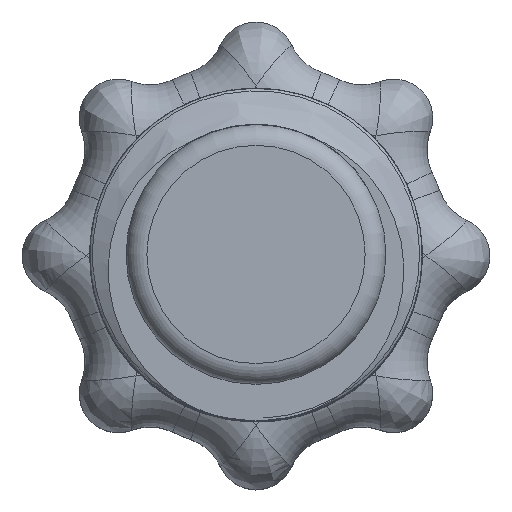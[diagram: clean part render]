
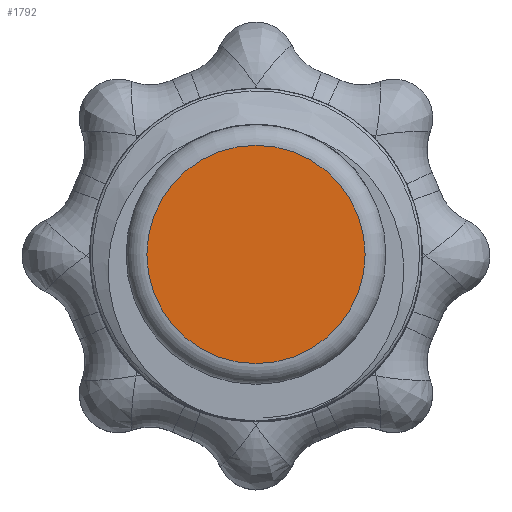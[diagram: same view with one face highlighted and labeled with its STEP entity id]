
A CAD part, top view. The second image highlights one B-rep face of the part: STEP entity #1792.
In plain terms, the highlighted planar face has unit normal (0, 0, 1).
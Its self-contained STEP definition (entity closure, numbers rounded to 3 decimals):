
#121=PLANE('',#1948);
#283=FACE_OUTER_BOUND('',#412,.T.);
#412=EDGE_LOOP('',(#1172,#1173));
#543=CIRCLE('',#1941,4.2);
#547=CIRCLE('',#1945,4.2);
#704=VERTEX_POINT('',#2799);
#705=VERTEX_POINT('',#2800);
#871=EDGE_CURVE('',#704,#705,#543,.T.);
#875=EDGE_CURVE('',#705,#704,#547,.T.);
#1172=ORIENTED_EDGE('',*,*,#871,.F.);
#1173=ORIENTED_EDGE('',*,*,#875,.F.);
#1792=ADVANCED_FACE('',(#283),#121,.T.);
#1941=AXIS2_PLACEMENT_3D('',#2801,#2212,#2213);
#1945=AXIS2_PLACEMENT_3D('',#2807,#2220,#2221);
#1948=AXIS2_PLACEMENT_3D('',#2812,#2227,#2228);
#2212=DIRECTION('center_axis',(0.,0.,-1.));
#2213=DIRECTION('ref_axis',(-1.,0.,0.));
#2220=DIRECTION('center_axis',(0.,0.,-1.));
#2221=DIRECTION('ref_axis',(-1.,0.,0.));
#2227=DIRECTION('center_axis',(0.,0.,1.));
#2228=DIRECTION('ref_axis',(1.,0.,0.));
#2799=CARTESIAN_POINT('',(4.2,0.,29.));
#2800=CARTESIAN_POINT('',(-4.2,0.,29.));
#2801=CARTESIAN_POINT('Origin',(0.,0.,29.));
#2807=CARTESIAN_POINT('Origin',(0.,0.,29.));
#2812=CARTESIAN_POINT('Origin',(0.,0.,29.));
